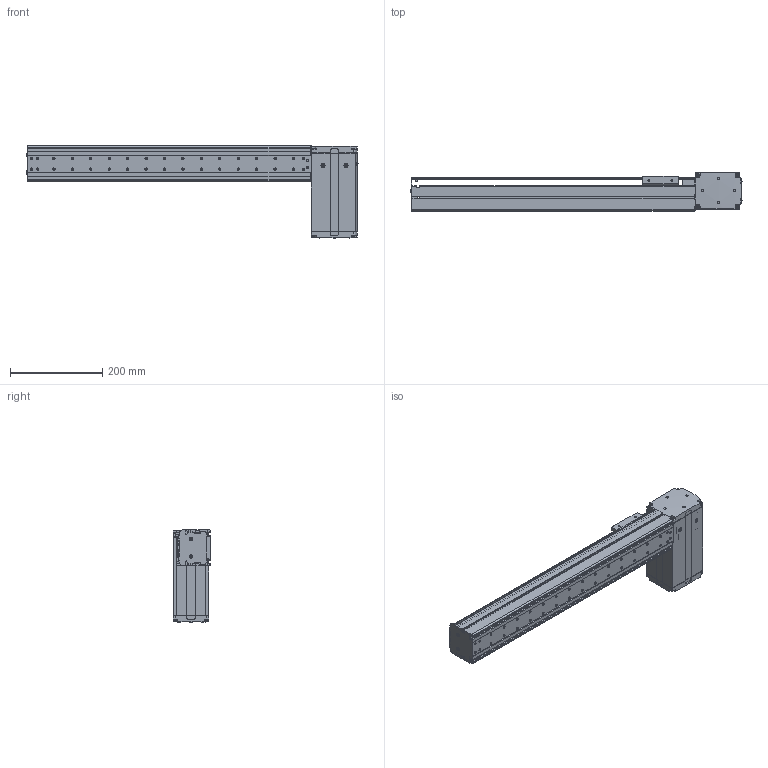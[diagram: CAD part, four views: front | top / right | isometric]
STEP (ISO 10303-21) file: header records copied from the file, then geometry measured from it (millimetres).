
FILE_DESCRIPTION((''),'2;1');
FILE_NAME('BE10_-BL-S_N-45_IGS_PRT','2017-06-18T',(' '),(''),'PRO/ENGINEER BY PARAMETRIC TECHNOLOGY CORPORATION, 2015030','PRO/ENGINEER BY PARAMETRIC TECHNOLOGY CORPORATION, 2015030','');
FILE_SCHEMA(('CONFIG_CONTROL_DESIGN'));
Products named in the file (1): BE10_-BL-S_N-45_IGS_PRT
Bounding box: 720.8 x 82.5 x 200.22 mm (x, y, z)
Volume: 991464.3 mm3; surface area: 709419.8 mm2
Topology: 3 solids, 114 shells, 1958 faces, 5343 edges, 3501 vertices
Faces by surface type: plane 973, cylinder 822, cone 103, sphere 30, torus 27, bspline 3
Entity records: 63441 total; most frequent: CARTESIAN_POINT 12852, DIRECTION 10716, ORIENTED_EDGE 10202, EDGE_CURVE 5289, AXIS2_PLACEMENT_3D 3787, VERTEX_POINT 3501, VECTOR 3142, LINE 3142
